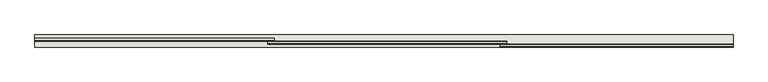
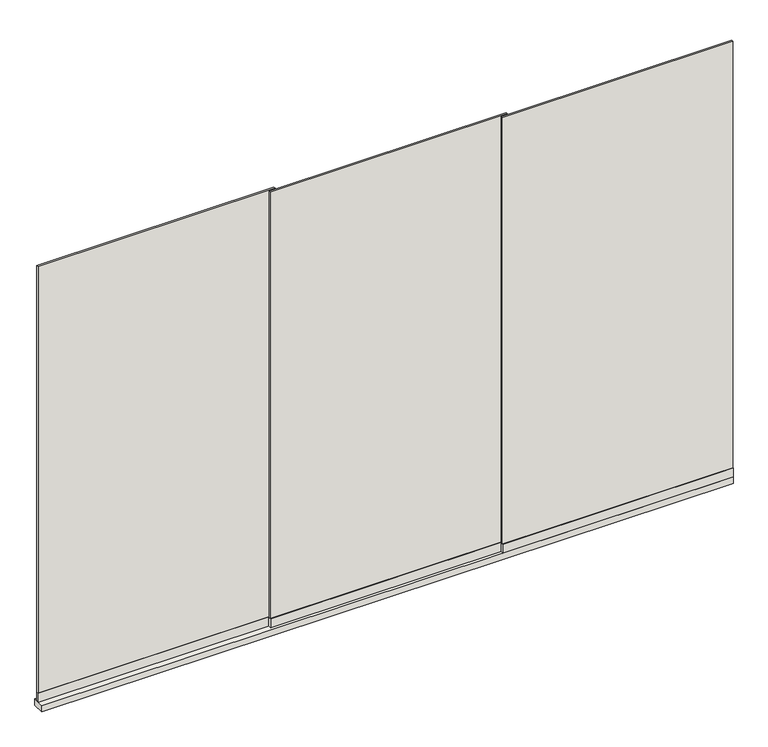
"""IFC4 building model written with IfcOpenShell, lengths in millimetres: wall geometry, Renson_Amani_Glass_Sliding_Panel : Renson_Amani_Glass_Sliding_Panel."""

import ifcopenshell
import ifcopenshell.guid

model = None  # the IFC model being written
_history = None  # IfcOwnerHistory: only IFC2X3 demands one
_inside = {}  # id of a spatial element -> (the spatial element, [elements in it])
_under = {}  # id of a project, library or spatial element -> (it, [spatial elements below it])
_declared = {}  # id of a project -> (the project, [libraries it declares])
_typed = {}  # id of a type object -> (the type object, [elements of that type])
_made_of = {}  # id of a material, layer set ... -> (it, [elements and type objects made of it])


def new_model(schema):
    """Start an empty IFC model of exactly this schema.

    Asked for "IFC4X3", IfcOpenShell would pick the latest addendum, in which some entities
    have other attributes; the version numbers below select the first issue.
    IFC2X3 requires an IfcOwnerHistory on every rooted entity: one is made here for all.
    """
    global model, _history
    if schema == "IFC4X3":
        model = ifcopenshell.file(schema_version=(4, 3, 0, 0))
    else:
        model = ifcopenshell.file(schema=schema)
    _inside.clear()
    _under.clear()
    _declared.clear()
    _typed.clear()
    _made_of.clear()
    _history = None
    if model.schema == "IFC2X3":
        org = make("IfcOrganization", Name="unknown")
        user = make(
            "IfcPersonAndOrganization",
            ThePerson=make("IfcPerson", FamilyName="unknown"),
            TheOrganization=org,
        )
        app = make(
            "IfcApplication",
            ApplicationDeveloper=org,
            Version="unknown",
            ApplicationFullName="unknown",
            ApplicationIdentifier="unknown",
        )
        _history = make(
            "IfcOwnerHistory",
            OwningUser=user,
            OwningApplication=app,
            ChangeAction="ADDED",
            CreationDate=0,
        )
    return model


def make(cls, **values):
    """One entity of the class cls with the attributes given. An attribute that is None is left unset."""
    return model.create_entity(
        cls, **{name: value for name, value in values.items() if value is not None}
    )


def rooted(cls, **values):
    """An entity with a GlobalId (a new one), such as an element, a storey or a relation."""
    return make(cls, GlobalId=ifcopenshell.guid.new(), OwnerHistory=_history, **values)


def si_unit(unit_type, name, prefix=None):
    """IfcSIUnit, for example si_unit("LENGTHUNIT", "METRE", prefix="MILLI")."""
    return make("IfcSIUnit", UnitType=unit_type, Prefix=prefix, Name=name)


def assignment(units):
    """IfcUnitAssignment: the units of a project."""
    return None if units is None else make("IfcUnitAssignment", Units=units)


def point(xyz):
    """IfcCartesianPoint."""
    return None if xyz is None else make("IfcCartesianPoint", Coordinates=xyz)


def direction(xyz):
    """IfcDirection."""
    return None if xyz is None else make("IfcDirection", DirectionRatios=xyz)


def frame(location, z_axis=None, x_axis=None):
    """IfcAxis2Placement3D, a coordinate frame: its origin and axes. An axis left out is left unset."""
    return make(
        "IfcAxis2Placement3D",
        Location=point(location),
        Axis=direction(z_axis),
        RefDirection=direction(x_axis),
    )


def origin():
    """The frame at (0, 0, 0) with its axes left unset."""
    return frame((0.0, 0.0, 0.0))


def origin_with_axes():
    """The frame at (0, 0, 0) with the z axis (0, 0, 1) and the x axis (1, 0, 0) written out."""
    return frame((0.0, 0.0, 0.0), z_axis=(0.0, 0.0, 1.0), x_axis=(1.0, 0.0, 0.0))


def place(relative_to, where):
    """IfcLocalPlacement: puts the frame where relative to a parent placement (None: the world)."""
    return make(
        "IfcLocalPlacement", PlacementRelTo=relative_to, RelativePlacement=where
    )


def context(
    kind, dimensions, precision=None, world=None, true_north=None, identifier=None
):
    """IfcGeometricRepresentationContext, for example the 3D "Model" context."""
    return make(
        "IfcGeometricRepresentationContext",
        ContextIdentifier=identifier,
        ContextType=kind,
        CoordinateSpaceDimension=dimensions,
        Precision=precision,
        WorldCoordinateSystem=world,
        TrueNorth=true_north,
    )


def project(units=None, contexts=None):
    """IfcProject with its units and contexts."""
    return rooted(
        "IfcProject",
        Name="project",
        RepresentationContexts=contexts,
        UnitsInContext=assignment(units),
    )


def spatial(cls, under=None, at=None, **own):
    """A site, building, storey or space (cls), placed at a placement, below another one or the project."""
    s = rooted(cls, ObjectPlacement=at, **own)
    if under is not None:
        _under.setdefault(under.id(), (under, []))[1].append(s)
    return s


def polyline(points):
    """IfcPolyline through the points."""
    return make("IfcPolyline", Points=[point(p) for p in points])


def outline(outer, holes=None, kind="AREA"):
    """IfcArbitraryClosedProfileDef: a profile drawn as a closed curve; with holes, ...WithVoids."""
    if holes is None:
        return make("IfcArbitraryClosedProfileDef", ProfileType=kind, OuterCurve=outer)
    return make(
        "IfcArbitraryProfileDefWithVoids",
        ProfileType=kind,
        OuterCurve=outer,
        InnerCurves=holes,
    )


def extrude(swept, where, along, depth):
    """IfcExtrudedAreaSolid: the profile swept, set in the frame where, extruded along a direction by depth."""
    return make(
        "IfcExtrudedAreaSolid",
        SweptArea=swept,
        Position=where,
        ExtrudedDirection=direction(along),
        Depth=depth,
    )


def shape(context_of_items, identifier, shape_type, items):
    """IfcShapeRepresentation: the items that make up one representation, for example the "Body"."""
    return make(
        "IfcShapeRepresentation",
        ContextOfItems=context_of_items,
        RepresentationIdentifier=identifier,
        RepresentationType=shape_type,
        Items=items,
    )


def source(mapping_origin, context_of_items, identifier, shape_type, items):
    """IfcRepresentationMap: a shape defined once, which mapped items show again and again."""
    return make(
        "IfcRepresentationMap",
        MappingOrigin=mapping_origin,
        MappedRepresentation=shape(context_of_items, identifier, shape_type, items),
    )


def transform(
    local_origin,
    x_axis=None,
    y_axis=None,
    z_axis=None,
    scale=None,
    scale2=None,
    scale3=None,
    uniform=True,
):
    """IfcCartesianTransformationOperator3D, or its non-uniform kind. x_axis, y_axis, z_axis: its Axis1, 2, 3."""
    if uniform:
        return make(
            "IfcCartesianTransformationOperator3D",
            Axis1=direction(x_axis),
            Axis2=direction(y_axis),
            LocalOrigin=point(local_origin),
            Scale=scale,
            Axis3=direction(z_axis),
        )
    return make(
        "IfcCartesianTransformationOperator3DnonUniform",
        Axis1=direction(x_axis),
        Axis2=direction(y_axis),
        LocalOrigin=point(local_origin),
        Scale=scale,
        Axis3=direction(z_axis),
        Scale2=scale2,
        Scale3=scale3,
    )


def mapped(mapping_source, mapping_target):
    """IfcMappedItem: shows the shape of a source again, moved by a transform."""
    return make(
        "IfcMappedItem", MappingSource=mapping_source, MappingTarget=mapping_target
    )


def made_of(thing, what):
    """Note that an element or type object is made of a material, layer set ...; save() writes the relation."""
    if what is not None:
        _made_of.setdefault(what.id(), (what, []))[1].append(thing)
    return thing


def element(
    cls,
    number,
    at=None,
    inside=None,
    cuts=None,
    type_object=None,
    material=None,
    context=None,
    identifier="Body",
    shape_type=None,
    held_by="IfcProductDefinitionShape",
    body=None,
    shapes=None,
    **own,
):
    """One element of the class cls, such as IfcWall. Its Tag is "e" and its number.

    at: its placement. inside: the storey or other place that contains it. cuts: it is an
    opening in that element (IfcRelVoidsElement). A single representation is given by context,
    identifier, shape_type and body (its items); several are given by shapes. held_by: the class
    of the entity that holds the representations. save() writes the other relations.
    """
    e = rooted(cls, Tag="e%d" % number, ObjectPlacement=at, **own)
    if body is not None:
        shapes = [shape(context, identifier, shape_type, body)]
    if shapes is not None:
        e.Representation = make(held_by, Representations=shapes)
    if inside is not None:
        _inside.setdefault(inside.id(), (inside, []))[1].append(e)
    if cuts is not None:
        rooted(
            "IfcRelVoidsElement", RelatingBuildingElement=cuts, RelatedOpeningElement=e
        )
    if type_object is not None:
        _typed.setdefault(type_object.id(), (type_object, []))[1].append(e)
    return made_of(e, material)


def aggregate(whole, parts):
    """IfcRelAggregates: a whole, such as a stair, and the parts it consists of."""
    return rooted("IfcRelAggregates", RelatingObject=whole, RelatedObjects=parts)


def save(model, path):
    """Write the relations noted so far, then the file.

    IfcRelAggregates (storeys below a building ...), IfcRelContainedInSpatialStructure (elements
    in a storey), IfcRelDefinesByType, IfcRelAssociatesMaterial and IfcRelDeclares: one each for
    every whole, place, type object, material and project.
    """
    for whole, parts in _under.values():
        aggregate(whole, parts)
    for where, things in _inside.values():
        rooted(
            "IfcRelContainedInSpatialStructure",
            RelatedElements=things,
            RelatingStructure=where,
        )
    for kind, things in _typed.values():
        rooted("IfcRelDefinesByType", RelatedObjects=things, RelatingType=kind)
    for what, things in _made_of.values():
        rooted("IfcRelAssociatesMaterial", RelatedObjects=things, RelatingMaterial=what)
    for by, libraries in _declared.values():
        rooted("IfcRelDeclares", RelatingContext=by, RelatedDefinitions=libraries)
    model.write(path)


def wall_3baa8c77(model_context):
    return source(origin(), model_context, "Body", "SweptSolid", [
        extrude(outline(polyline([(750.0, 0.0), (-2950.0, 0.0), (-2950.0, 64.0), (750.0, 64.0), (750.0, 0.0)])), origin_with_axes(), (0.0, 0.0, 1.0), 35.0),
        extrude(outline(polyline([(750.0, 3.0), (-483.3333333, 3.0), (-483.3333333, 13.0), (750.0, 13.0), (750.0, 3.0)])), frame((0.0, 0.0, 86.0), z_axis=(0.0, 0.0, 1.0), x_axis=(1.0, 0.0, 0.0)), (0.0, 0.0, 1.0), 2414.0),
        extrude(outline(polyline([(-448.3333333, 19.0), (-1716.6666667, 19.0), (-1716.6666667, 29.0), (-448.3333333, 29.0), (-448.3333333, 19.0)])), frame((0.0, 0.0, 86.0), z_axis=(0.0, 0.0, 1.0), x_axis=(1.0, 0.0, 0.0)), (0.0, 0.0, 1.0), 2414.0),
        extrude(outline(polyline([(-1681.6666667, 35.0), (-2950.0, 35.0), (-2950.0, 45.0), (-1681.6666667, 45.0), (-1681.6666667, 35.0)])), frame((0.0, 0.0, 86.0), z_axis=(0.0, 0.0, 1.0), x_axis=(1.0, 0.0, 0.0)), (0.0, 0.0, 1.0), 2414.0),
        extrude(outline(polyline([(750.0, 0.0), (-483.3333333, 0.0), (-483.3333333, 16.0), (750.0, 16.0), (750.0, 0.0)])), frame((0.0, 0.0, 35.0), z_axis=(0.0, 0.0, 1.0), x_axis=(1.0, 0.0, 0.0)), (0.0, 0.0, 1.0), 51.0),
        extrude(outline(polyline([(-448.3333333, 16.0), (-1716.6666667, 16.0), (-1716.6666667, 32.0), (-448.3333333, 32.0), (-448.3333333, 16.0)])), frame((0.0, 0.0, 35.0), z_axis=(0.0, 0.0, 1.0), x_axis=(1.0, 0.0, 0.0)), (0.0, 0.0, 1.0), 51.0),
        extrude(outline(polyline([(-1681.6666667, 32.0), (-2950.0, 32.0), (-2950.0, 48.0), (-1681.6666667, 48.0), (-1681.6666667, 32.0)])), frame((0.0, 0.0, 35.0), z_axis=(0.0, 0.0, 1.0), x_axis=(1.0, 0.0, 0.0)), (0.0, 0.0, 1.0), 51.0),
    ])


if __name__ == "__main__":
    model = new_model("IFC4")
    model_context = context("Model", 3, world=origin())
    ifc_project = project(units=[si_unit("LENGTHUNIT", "METRE", prefix="MILLI")], contexts=[model_context])
    site = spatial("IfcSite", under=ifc_project)
    building = spatial("IfcBuilding", under=site)
    placement = place(None, origin())
    wall_shape = wall_3baa8c77(model_context)
    element("IfcWall", 1, ObjectType="Renson_Amani_Glass_Sliding_Panel : Renson_Amani_Glass_Sliding_Panel", at=placement, inside=building, context=model_context, shape_type="MappedRepresentation", body=[
        mapped(wall_shape, transform((0.0, 0.0, 0.0), x_axis=(1.0, 0.0, 0.0), y_axis=(0.0, 1.0, 0.0), z_axis=(0.0, 0.0, 1.0))),
    ])
    save(model, "model.ifc")
